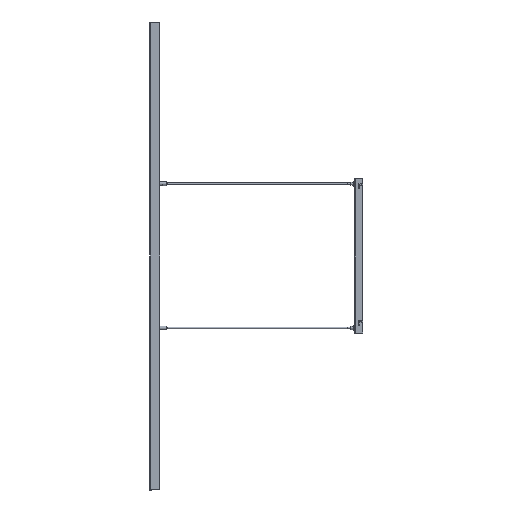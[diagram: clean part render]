
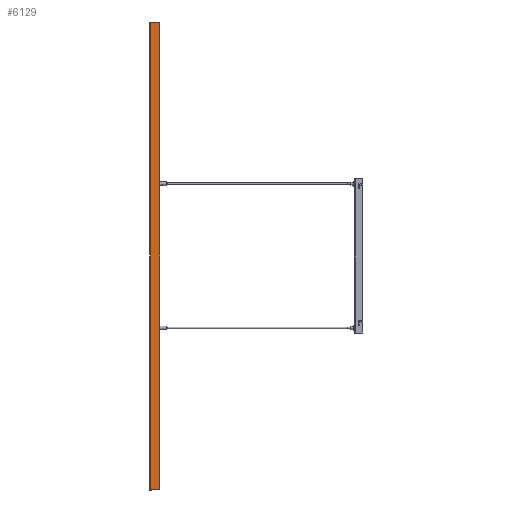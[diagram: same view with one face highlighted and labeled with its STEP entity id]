
A CAD part, left-side view. The second image highlights one B-rep face of the part: STEP entity #6129.
In plain terms, the highlighted planar face has unit normal (-1, 0, 0) as drawn and (0, 0, -1) by its records, which use the part's own axes.
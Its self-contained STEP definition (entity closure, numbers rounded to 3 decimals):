
#404 = VECTOR ( 'NONE', #13040, 1000. ) ;
#1455 = VECTOR ( 'NONE', #14639, 1000. ) ;
#1695 = CARTESIAN_POINT ( 'NONE',  ( 598., 0.5, -12.75 ) ) ;
#1912 = LINE ( 'NONE', #10581, #13784 ) ;
#2113 = ORIENTED_EDGE ( 'NONE', *, *, #12983, .T. ) ;
#2237 = VERTEX_POINT ( 'NONE', #6870 ) ;
#2895 = EDGE_LOOP ( 'NONE', ( #2113, #5947, #15166, #9912 ) ) ;
#3061 = CARTESIAN_POINT ( 'NONE',  ( -598., 0.5, -12.75 ) ) ;
#3409 = CARTESIAN_POINT ( 'NONE',  ( 598., 24.7, -12.75 ) ) ;
#4221 = DIRECTION ( 'NONE',  ( 0., 1., 0. ) ) ;
#5709 = CARTESIAN_POINT ( 'NONE',  ( -598., 24.7, -12.75 ) ) ;
#5947 = ORIENTED_EDGE ( 'NONE', *, *, #10729, .F. ) ;
#6129 = ADVANCED_FACE ( 'NONE', ( #9521 ), #9283, .F. ) ;
#6361 = EDGE_CURVE ( 'NONE', #8246, #16159, #9167, .T. ) ;
#6694 = CARTESIAN_POINT ( 'NONE',  ( 598., 0.5, -12.75 ) ) ;
#6870 = CARTESIAN_POINT ( 'NONE',  ( -598., 0.5, -12.75 ) ) ;
#8246 = VERTEX_POINT ( 'NONE', #12702 ) ;
#9167 = LINE ( 'NONE', #6694, #404 ) ;
#9283 = PLANE ( 'NONE',  #10670 ) ;
#9450 = DIRECTION ( 'NONE',  ( 0., -1., 0. ) ) ;
#9521 = FACE_OUTER_BOUND ( 'NONE', #2895, .T. ) ;
#9912 = ORIENTED_EDGE ( 'NONE', *, *, #16191, .T. ) ;
#10581 = CARTESIAN_POINT ( 'NONE',  ( 598., 0.5, -12.75 ) ) ;
#10670 = AXIS2_PLACEMENT_3D ( 'NONE', #1695, #11764, #9450 ) ;
#10729 = EDGE_CURVE ( 'NONE', #16159, #15001, #12151, .T. ) ;
#11764 = DIRECTION ( 'NONE',  ( 0., 0., 1. ) ) ;
#12151 = LINE ( 'NONE', #3409, #1455 ) ;
#12702 = CARTESIAN_POINT ( 'NONE',  ( 598., 0.5, -12.75 ) ) ;
#12983 = EDGE_CURVE ( 'NONE', #2237, #15001, #15350, .T. ) ;
#13040 = DIRECTION ( 'NONE',  ( 0., 1., 0. ) ) ;
#13784 = VECTOR ( 'NONE', #15705, 1000. ) ;
#14639 = DIRECTION ( 'NONE',  ( -1., 0., 0. ) ) ;
#15001 = VERTEX_POINT ( 'NONE', #5709 ) ;
#15166 = ORIENTED_EDGE ( 'NONE', *, *, #6361, .F. ) ;
#15350 = LINE ( 'NONE', #3061, #15485 ) ;
#15485 = VECTOR ( 'NONE', #4221, 1000. ) ;
#15534 = CARTESIAN_POINT ( 'NONE',  ( 598., 24.7, -12.75 ) ) ;
#15705 = DIRECTION ( 'NONE',  ( -1., 0., 0. ) ) ;
#16159 = VERTEX_POINT ( 'NONE', #15534 ) ;
#16191 = EDGE_CURVE ( 'NONE', #8246, #2237, #1912, .T. ) ;
